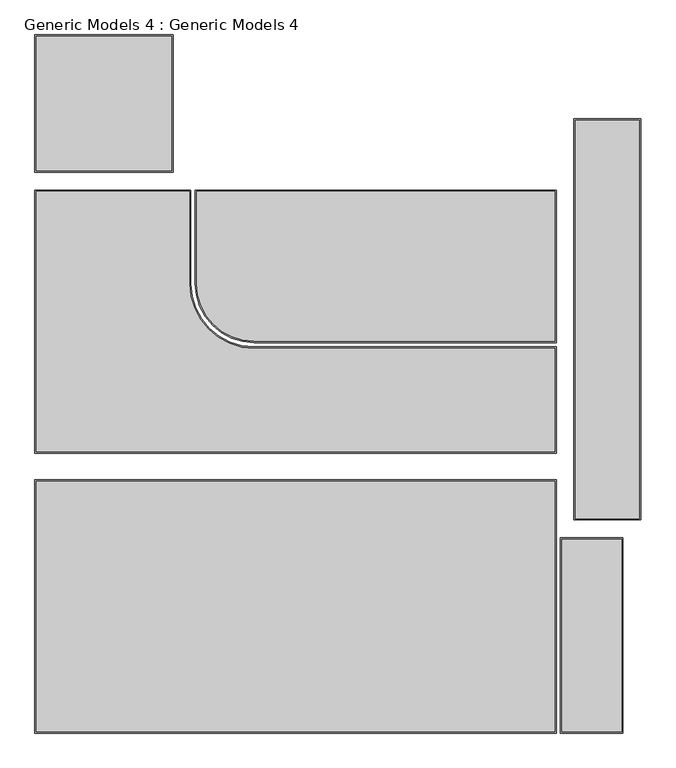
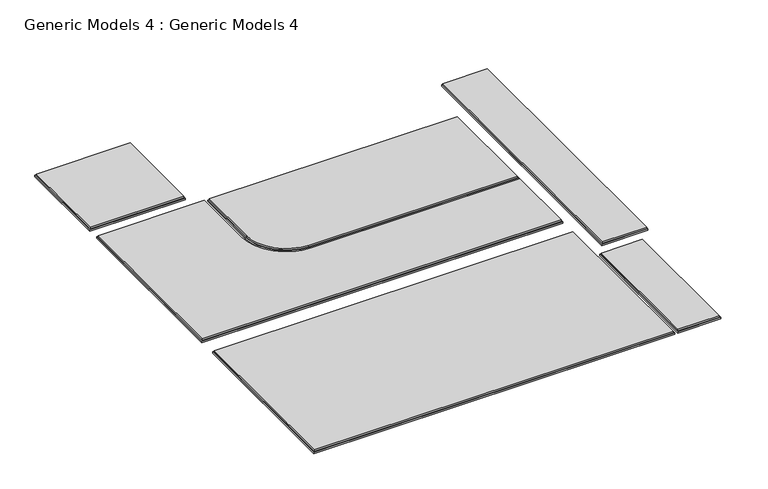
"""IFC4 building model written with IfcOpenShell, lengths in millimetres: proxy geometry, Generic Models 4 : Generic Models 4."""

from ifc_helpers import new_model, si_unit, frame, origin, place, context, project, spatial, polyline, circle_curve, faceted_brep, source, transform, mapped, element, save
from ifc_brep_helpers import plane_surface, cylinder_surface, revolved_surface, advanced_brep


def generic_models_4_generic_models_4_ffab7143(model_context):
    return source(origin(), model_context, "Body", "SolidModel", [
        faceted_brep([(23835.1576528, -2969.6399174, 3100.0), (12135.1576528, -2969.6399174, 3100.0), (12135.1576528, 2710.3600826, 3100.0), (23835.1576528, 2710.3600826, 3100.0), (23805.1576528, 2680.3600826, 3200.0), (12165.1576528, 2680.3600826, 3200.0), (12165.1576528, -2939.6399174, 3200.0), (23805.1576528, -2939.6399174, 3200.0), (23835.1576528, -2969.6399174, 3150.0), (12135.1576528, -2969.6399174, 3150.0), (12135.1576528, 2710.3600826, 3150.0), (23835.1576528, 2710.3600826, 3150.0), (12165.1576528, 2680.3600826, 3150.0), (23805.1576528, 2680.3600826, 3150.0), (23805.1576528, -2939.6399174, 3150.0), (12165.1576528, -2939.6399174, 3150.0)], [[[0, 1, 2, 3]], [[4, 5, 6, 7]], [[1, 0, 8, 9]], [[2, 1, 9, 10]], [[3, 2, 10, 11]], [[0, 3, 11, 8]], [[9, 8, 11, 10], [12, 13, 14, 15]], [[13, 12, 5, 4]], [[14, 13, 4, 7]], [[15, 14, 7, 6]], [[12, 15, 6, 5]]]),
        faceted_brep([(23935.1576528, -2969.6399174, 3100.0), (23935.1576528, 1410.3600826, 3100.0), (25335.1576528, 1410.3600826, 3100.0), (25335.1576528, -2969.6399174, 3100.0), (25305.1576528, 1380.3600826, 3200.0), (23965.1576528, 1380.3600826, 3200.0), (23965.1576528, -2939.6399174, 3200.0), (25305.1576528, -2939.6399174, 3200.0), (23935.1576528, -2969.6399174, 3150.0), (23935.1576528, 1410.3600826, 3150.0), (25335.1576528, 1410.3600826, 3150.0), (25335.1576528, -2969.6399174, 3150.0), (23965.1576528, 1380.3600826, 3150.0), (25305.1576528, 1380.3600826, 3150.0), (25305.1576528, -2939.6399174, 3150.0), (23965.1576528, -2939.6399174, 3150.0)], [[[0, 1, 2, 3]], [[4, 5, 6, 7]], [[1, 0, 8, 9]], [[2, 1, 9, 10]], [[3, 2, 10, 11]], [[0, 3, 11, 8]], [[9, 8, 11, 10], [12, 13, 14, 15]], [[13, 12, 5, 4]], [[14, 13, 4, 7]], [[15, 14, 7, 6]], [[12, 15, 6, 5]]]),
        advanced_brep(
        [(12135.1576528, 3310.3600826, 3100.0), (12135.1576528, 9210.3600826, 3100.0), (15635.1576528, 9210.3600826, 3100.0), (15635.1576528, 7110.3600826, 3100.0), (17055.1576528, 5690.3600826, 3100.0), (23835.1576528, 5690.3600826, 3100.0), (23835.1576528, 3310.3600826, 3100.0), (23805.1576528, 3340.3600826, 3200.0), (23805.1576528, 5660.3600826, 3200.0), (17055.1576528, 5660.3600826, 3200.0), (15605.1576528, 7110.3600826, 3200.0), (15605.1576528, 9180.3600826, 3200.0), (12165.1576528, 9180.3600826, 3200.0), (12165.1576528, 3340.3600826, 3200.0), (23835.1576528, 3310.3600826, 3150.0), (12135.1576528, 3310.3600826, 3150.0), (12135.1576528, 9210.3600826, 3150.0), (15635.1576528, 9210.3600826, 3150.0), (15635.1576528, 7110.3600826, 3150.0), (17055.1576528, 5690.3600826, 3150.0), (23835.1576528, 5690.3600826, 3150.0), (23805.1576528, 5660.3600826, 3150.0), (23805.1576528, 3340.3600826, 3150.0), (12165.1576528, 3340.3600826, 3150.0), (12165.1576528, 9180.3600826, 3150.0), (15605.1576528, 9180.3600826, 3150.0), (15605.1576528, 7110.3600826, 3150.0), (17055.1576528, 5660.3600826, 3150.0)],
        [
            (0, 1),
            (1, 2),
            (2, 3),
            (3, 4, circle_curve(frame((17055.1576528, 7110.3600826, 3100.0), z_axis=(0.0, 0.0, 1.0), x_axis=(1.0, 0.0, 0.0)), 1420.0)),
            (4, 5),
            (5, 6),
            (6, 0),
            (7, 8),
            (8, 9),
            (9, 10, circle_curve(frame((17055.1576528, 7110.3600826, 3200.0), z_axis=(0.0, 0.0, -1.0), x_axis=(1.0, 0.0, 0.0)), 1450.0)),
            (10, 11),
            (11, 12),
            (12, 13),
            (13, 7),
            (6, 14),
            (14, 15),
            (15, 0),
            (15, 16),
            (16, 1),
            (16, 17),
            (17, 2),
            (17, 18),
            (18, 3),
            (18, 19, circle_curve(frame((17055.1576528, 7110.3600826, 3150.0), z_axis=(0.0, 0.0, 1.0), x_axis=(1.0, 0.0, 0.0)), 1420.0)),
            (19, 4),
            (19, 20),
            (20, 5),
            (20, 14),
            (21, 22),
            (22, 23),
            (23, 24),
            (24, 25),
            (25, 26),
            (26, 27, circle_curve(frame((17055.1576528, 7110.3600826, 3150.0), z_axis=(0.0, 0.0, 1.0), x_axis=(1.0, 0.0, 0.0)), 1450.0)),
            (27, 21),
            (21, 8),
            (7, 22),
            (13, 23),
            (12, 24),
            (11, 25),
            (10, 26),
            (9, 27),
        ],
        [
            plane_surface(frame((12035.1576528, -2969.6399174, 3100.0), z_axis=(0.0, 0.0, -1.0), x_axis=(-1.0, 0.0, 0.0))),
            plane_surface(frame((12035.1576528, -2969.6399174, 3200.0), z_axis=(0.0, 0.0, 1.0), x_axis=(1.0, 0.0, 0.0))),
            plane_surface(frame((23835.1576528, 3310.3600826, 3100.0), z_axis=(0.0, -1.0, 0.0), x_axis=(0.0, 0.0, 1.0))),
            plane_surface(frame((12135.1576528, 3310.3600826, 3100.0), z_axis=(-1.0, 0.0, 0.0), x_axis=(0.0, 0.0, 1.0))),
            plane_surface(frame((12135.1576528, 9210.3600826, 3100.0), z_axis=(0.0, 1.0, 0.0), x_axis=(0.0, 0.0, 1.0))),
            plane_surface(frame((15635.1576528, 9210.3600826, 3100.0), z_axis=(1.0, 0.0, 0.0), x_axis=(0.0, 0.0, 1.0))),
            revolved_surface(polyline([(18475.1576528, 7110.3600826, 3150.0), (18475.1576528, 7110.3600826, 3100.0)]), (17055.1576528, 7110.3600826, 3200.0), (0.0, 0.0, 1.0)),
            plane_surface(frame((17055.1576528, 5690.3600826, 3100.0), z_axis=(0.0, 1.0, 0.0), x_axis=(0.0, 0.0, 1.0))),
            plane_surface(frame((23835.1576528, 5690.3600826, 3100.0), z_axis=(1.0, 0.0, 0.0), x_axis=(0.0, 0.0, 1.0))),
            plane_surface(frame((24235.1576528, 1810.3600826, 3150.0), z_axis=(0.0, 0.0, 1.0), x_axis=(-1.0, 0.0, 0.0))),
            plane_surface(frame((23805.1576528, 5660.3600826, 3200.0), z_axis=(1.0, 0.0, 0.0), x_axis=(0.0, 0.0, -1.0))),
            plane_surface(frame((23805.1576528, 3340.3600826, 3200.0), z_axis=(0.0, -1.0, 0.0), x_axis=(0.0, 0.0, -1.0))),
            plane_surface(frame((12165.1576528, 3340.3600826, 3200.0), z_axis=(-1.0, 0.0, 0.0), x_axis=(0.0, 0.0, -1.0))),
            plane_surface(frame((12165.1576528, 9180.3600826, 3200.0), z_axis=(0.0, 1.0, 0.0), x_axis=(0.0, 0.0, -1.0))),
            plane_surface(frame((15605.1576528, 9180.3600826, 3200.0), z_axis=(1.0, 0.0, 0.0), x_axis=(0.0, 0.0, -1.0))),
            revolved_surface(polyline([(18505.1576528, 7110.3600826, 3200.0), (18505.1576528, 7110.3600826, 3150.0)]), (17055.1576528, 7110.3600826, 3200.0), (0.0, 0.0, 1.0)),
            plane_surface(frame((17055.1576528, 5660.3600826, 3200.0), z_axis=(0.0, 1.0, 0.0), x_axis=(0.0, 0.0, -1.0))),
        ],
        [
            (0, [[1, 2, 3, 4, 5, 6, 7]]),
            (1, [[8, 9, 10, 11, 12, 13, 14]]),
            (2, [[-7, 15, 16, 17]]),
            (3, [[-1, -17, 18, 19]]),
            (4, [[-2, -19, 20, 21]]),
            (5, [[-3, -21, 22, 23]]),
            (6, [[-4, -23, 24, 25]]),
            (7, [[-5, -25, 26, 27]]),
            (8, [[-6, -27, 28, -15]]),
            (9, [[-16, -28, -26, -24, -22, -20, -18], [29, 30, 31, 32, 33, 34, 35]]),
            (10, [[-29, 36, -8, 37]]),
            (11, [[-30, -37, -14, 38]]),
            (12, [[-31, -38, -13, 39]]),
            (13, [[-32, -39, -12, 40]]),
            (14, [[-33, -40, -11, 41]]),
            (15, [[-34, -41, -10, 42]]),
            (16, [[-35, -42, -9, -36]]),
        ],
    ),
        faceted_brep([(15235.1576528, 9610.3600826, 3100.0), (12135.1576528, 9610.3600826, 3100.0), (12135.1576528, 12690.3600826, 3100.0), (15235.1576528, 12690.3600826, 3100.0), (12165.1576528, 9640.3600826, 3200.0), (15205.1576528, 9640.3600826, 3200.0), (15205.1576528, 12660.3600826, 3200.0), (12165.1576528, 12660.3600826, 3200.0), (15235.1576528, 9610.3600826, 3150.0), (12135.1576528, 9610.3600826, 3150.0), (12135.1576528, 12690.3600826, 3150.0), (15235.1576528, 12690.3600826, 3150.0), (15205.1576528, 9640.3600826, 3150.0), (12165.1576528, 9640.3600826, 3150.0), (12165.1576528, 12660.3600826, 3150.0), (15205.1576528, 12660.3600826, 3150.0)], [[[0, 1, 2, 3]], [[4, 5, 6, 7]], [[1, 0, 8, 9]], [[2, 1, 9, 10]], [[3, 2, 10, 11]], [[0, 3, 11, 8]], [[9, 8, 11, 10], [12, 13, 14, 15]], [[13, 12, 5, 4]], [[14, 13, 4, 7]], [[15, 14, 7, 6]], [[12, 15, 6, 5]]]),
        faceted_brep([(24235.1576528, 10810.3600826, 3100.0), (25735.1576528, 10810.3600826, 3100.0), (25735.1576528, 1810.3600826, 3100.0), (24235.1576528, 1810.3600826, 3100.0), (24265.1576528, 10780.3600826, 3200.0), (24265.1576528, 1840.3600826, 3200.0), (25705.1576528, 1840.3600826, 3200.0), (25705.1576528, 10780.3600826, 3200.0), (24235.1576528, 10810.3600826, 3150.0), (25735.1576528, 10810.3600826, 3150.0), (25735.1576528, 1810.3600826, 3150.0), (24235.1576528, 1810.3600826, 3150.0), (24265.1576528, 1840.3600826, 3150.0), (24265.1576528, 10780.3600826, 3150.0), (25705.1576528, 10780.3600826, 3150.0), (25705.1576528, 1840.3600826, 3150.0)], [[[0, 1, 2, 3]], [[4, 5, 6, 7]], [[1, 0, 8, 9]], [[2, 1, 9, 10]], [[3, 2, 10, 11]], [[0, 3, 11, 8]], [[9, 8, 11, 10], [12, 13, 14, 15]], [[13, 12, 5, 4]], [[14, 13, 4, 7]], [[15, 14, 7, 6]], [[12, 15, 6, 5]]]),
        advanced_brep(
        [(23835.1576528, 5790.3600826, 3100.0), (17055.1576528, 5790.3600826, 3100.0), (15735.1576528, 7110.3600826, 3100.0), (15735.1576528, 9210.3600826, 3100.0), (23835.1576528, 9210.3600826, 3100.0), (17055.1576528, 5820.3600826, 3200.0), (23805.1576528, 5820.3600826, 3200.0), (23805.1576528, 9180.3600826, 3200.0), (15765.1576528, 9180.3600826, 3200.0), (15765.1576528, 7110.3600826, 3200.0), (23835.1576528, 9210.3600826, 3150.0), (23835.1576528, 5790.3600826, 3150.0), (17055.1576528, 5790.3600826, 3150.0), (15735.1576528, 7110.3600826, 3150.0), (15735.1576528, 9210.3600826, 3150.0), (23805.1576528, 5820.3600826, 3150.0), (17055.1576528, 5820.3600826, 3150.0), (15765.1576528, 7110.3600826, 3150.0), (15765.1576528, 9180.3600826, 3150.0), (23805.1576528, 9180.3600826, 3150.0)],
        [
            (0, 1),
            (1, 2, circle_curve(frame((17055.1576528, 7110.3600826, 3100.0), z_axis=(0.0, 0.0, -1.0), x_axis=(1.0, 0.0, 0.0)), 1320.0)),
            (2, 3),
            (3, 4),
            (4, 0),
            (5, 6),
            (6, 7),
            (7, 8),
            (8, 9),
            (9, 5, circle_curve(frame((17055.1576528, 7110.3600826, 3200.0), z_axis=(0.0, 0.0, 1.0), x_axis=(1.0, 0.0, 0.0)), 1290.0)),
            (4, 10),
            (10, 11),
            (11, 0),
            (11, 12),
            (12, 1),
            (12, 13, circle_curve(frame((17055.1576528, 7110.3600826, 3150.0), z_axis=(0.0, 0.0, -1.0), x_axis=(1.0, 0.0, 0.0)), 1320.0)),
            (13, 2),
            (13, 14),
            (14, 3),
            (14, 10),
            (15, 16),
            (16, 17, circle_curve(frame((17055.1576528, 7110.3600826, 3150.0), z_axis=(0.0, 0.0, -1.0), x_axis=(1.0, 0.0, 0.0)), 1290.0)),
            (17, 18),
            (18, 19),
            (19, 15),
            (15, 6),
            (5, 16),
            (9, 17),
            (8, 18),
            (7, 19),
        ],
        [
            plane_surface(frame((12035.1576528, -2969.6399174, 3100.0), z_axis=(0.0, 0.0, -1.0), x_axis=(-1.0, 0.0, 0.0))),
            plane_surface(frame((12035.1576528, -2969.6399174, 3200.0), z_axis=(0.0, 0.0, 1.0), x_axis=(1.0, 0.0, 0.0))),
            plane_surface(frame((23835.1576528, 9210.3600826, 3100.0), z_axis=(1.0, 0.0, 0.0), x_axis=(0.0, 0.0, 1.0))),
            plane_surface(frame((23835.1576528, 5790.3600826, 3100.0), z_axis=(0.0, -1.0, 0.0), x_axis=(0.0, 0.0, 1.0))),
            cylinder_surface(frame((17055.1576528, 7110.3600826, 3200.0), z_axis=(0.0, 0.0, -1.0), x_axis=(1.0, 0.0, 0.0)), 1320.0),
            plane_surface(frame((15735.1576528, 7110.3600826, 3100.0), z_axis=(-1.0, 0.0, 0.0), x_axis=(0.0, 0.0, 1.0))),
            plane_surface(frame((15735.1576528, 9210.3600826, 3100.0), z_axis=(0.0, 1.0, 0.0), x_axis=(0.0, 0.0, 1.0))),
            plane_surface(frame((24235.1576528, 1810.3600826, 3150.0), z_axis=(0.0, 0.0, 1.0), x_axis=(-1.0, 0.0, 0.0))),
            plane_surface(frame((23805.1576528, 5820.3600826, 3200.0), z_axis=(0.0, -1.0, 0.0), x_axis=(0.0, 0.0, -1.0))),
            cylinder_surface(frame((17055.1576528, 7110.3600826, 3200.0), z_axis=(0.0, 0.0, -1.0), x_axis=(1.0, 0.0, 0.0)), 1290.0),
            plane_surface(frame((15765.1576528, 7110.3600826, 3200.0), z_axis=(-1.0, 0.0, 0.0), x_axis=(0.0, 0.0, -1.0))),
            plane_surface(frame((15765.1576528, 9180.3600826, 3200.0), z_axis=(0.0, 1.0, 0.0), x_axis=(0.0, 0.0, -1.0))),
            plane_surface(frame((23805.1576528, 9180.3600826, 3200.0), z_axis=(1.0, 0.0, 0.0), x_axis=(0.0, 0.0, -1.0))),
        ],
        [
            (0, [[1, 2, 3, 4, 5]]),
            (1, [[6, 7, 8, 9, 10]]),
            (2, [[-5, 11, 12, 13]]),
            (3, [[-1, -13, 14, 15]]),
            (4, [[-2, -15, 16, 17]]),
            (5, [[-3, -17, 18, 19]]),
            (6, [[-4, -19, 20, -11]]),
            (7, [[-12, -20, -18, -16, -14], [21, 22, 23, 24, 25]]),
            (8, [[-21, 26, -6, 27]]),
            (9, [[-22, -27, -10, 28]]),
            (10, [[-23, -28, -9, 29]]),
            (11, [[-24, -29, -8, 30]]),
            (12, [[-25, -30, -7, -26]]),
        ],
    ),
    ])


if __name__ == "__main__":
    model = new_model("IFC4")
    model_context = context("Model", 3, world=origin())
    ifc_project = project(units=[si_unit("LENGTHUNIT", "METRE", prefix="MILLI")], contexts=[model_context])
    site = spatial("IfcSite", under=ifc_project)
    building = spatial("IfcBuilding", under=site)
    placement = place(None, origin())
    generic_models_4_generic_models_4_shape = generic_models_4_generic_models_4_ffab7143(model_context)
    element("IfcBuildingElementProxy", 1, Name="Generic Models 4 : Generic Models 4", ObjectType="Generic Models 4 : Generic Models 4", at=placement, inside=building, context=model_context, shape_type="MappedRepresentation", body=[
        mapped(generic_models_4_generic_models_4_shape, transform((0.0, 0.0, 0.0), x_axis=(1.0, 0.0, 0.0), y_axis=(0.0, 1.0, 0.0), z_axis=(0.0, 0.0, 1.0))),
    ])
    save(model, "model.ifc")
